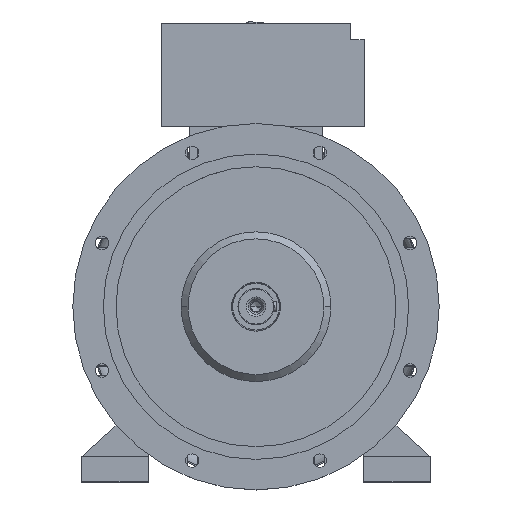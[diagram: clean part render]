
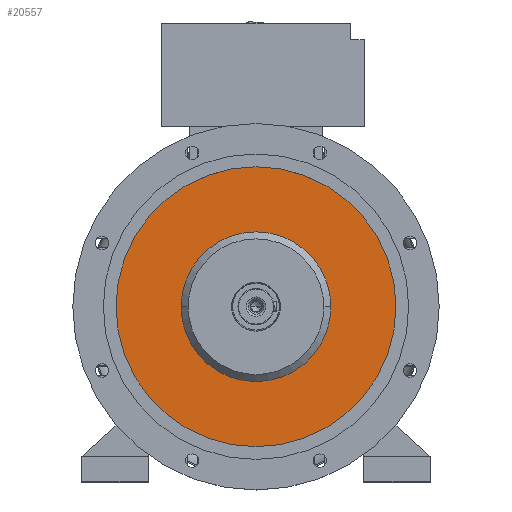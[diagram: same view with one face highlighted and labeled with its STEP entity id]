
A CAD part, top view. The second image highlights one B-rep face of the part: STEP entity #20557.
In plain terms, the highlighted planar face has unit normal (0, 0, 1).
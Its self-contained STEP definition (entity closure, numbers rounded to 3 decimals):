
#338 = AXIS2_PLACEMENT_3D ( 'NONE', #20615, #12152, #10048 ) ;
#1079 = EDGE_LOOP ( 'NONE', ( #16711, #14257 ) ) ;
#1536 = DIRECTION ( 'NONE',  ( 1., 0., 0. ) ) ;
#1655 = CIRCLE ( 'NONE', #13683, 134.8 ) ;
#2373 = DIRECTION ( 'NONE',  ( -1., 0., 0. ) ) ;
#2785 = FACE_OUTER_BOUND ( 'NONE', #1079, .T. ) ;
#3695 = ORIENTED_EDGE ( 'NONE', *, *, #10586, .T. ) ;
#4003 = ORIENTED_EDGE ( 'NONE', *, *, #14015, .T. ) ;
#5233 = CARTESIAN_POINT ( 'NONE',  ( 0., 0., 455.4 ) ) ;
#5299 = CIRCLE ( 'NONE', #6206, 252.083 ) ;
#5752 = VERTEX_POINT ( 'NONE', #21466 ) ;
#6206 = AXIS2_PLACEMENT_3D ( 'NONE', #5233, #6880, #11080 ) ;
#6880 = DIRECTION ( 'NONE',  ( 0., 0., 1. ) ) ;
#7960 = CARTESIAN_POINT ( 'NONE',  ( 0., 0., 455.4 ) ) ;
#9981 = CIRCLE ( 'NONE', #12618, 252.083 ) ;
#10048 = DIRECTION ( 'NONE',  ( -1., 0., 0. ) ) ;
#10586 = EDGE_CURVE ( 'NONE', #12983, #26009, #1655, .T. ) ;
#11013 = VERTEX_POINT ( 'NONE', #17675 ) ;
#11080 = DIRECTION ( 'NONE',  ( -1., 0., 0. ) ) ;
#12051 = DIRECTION ( 'NONE',  ( 0., 0., 1. ) ) ;
#12152 = DIRECTION ( 'NONE',  ( 0., 0., -1. ) ) ;
#12168 = DIRECTION ( 'NONE',  ( 0., 0., 1. ) ) ;
#12618 = AXIS2_PLACEMENT_3D ( 'NONE', #7960, #12168, #2373 ) ;
#12771 = EDGE_CURVE ( 'NONE', #11013, #5752, #5299, .T. ) ;
#12983 = VERTEX_POINT ( 'NONE', #20449 ) ;
#13683 = AXIS2_PLACEMENT_3D ( 'NONE', #22748, #22827, #18665 ) ;
#13858 = FACE_BOUND ( 'NONE', #15076, .T. ) ;
#14015 = EDGE_CURVE ( 'NONE', #26009, #12983, #20143, .T. ) ;
#14257 = ORIENTED_EDGE ( 'NONE', *, *, #17148, .T. ) ;
#15076 = EDGE_LOOP ( 'NONE', ( #4003, #3695 ) ) ;
#16711 = ORIENTED_EDGE ( 'NONE', *, *, #12771, .T. ) ;
#17148 = EDGE_CURVE ( 'NONE', #5752, #11013, #9981, .T. ) ;
#17675 = CARTESIAN_POINT ( 'NONE',  ( -252.083, 0., 455.4 ) ) ;
#18665 = DIRECTION ( 'NONE',  ( -1., 0., 0. ) ) ;
#20143 = CIRCLE ( 'NONE', #338, 134.8 ) ;
#20449 = CARTESIAN_POINT ( 'NONE',  ( 134.8, 0., 455.4 ) ) ;
#20557 = ADVANCED_FACE ( 'NONE', ( #13858, #2785 ), #22512, .T. ) ;
#20615 = CARTESIAN_POINT ( 'NONE',  ( 0., 0., 455.4 ) ) ;
#21466 = CARTESIAN_POINT ( 'NONE',  ( 252.083, 0., 455.4 ) ) ;
#21503 = AXIS2_PLACEMENT_3D ( 'NONE', #22601, #12051, #1536 ) ;
#22512 = PLANE ( 'NONE',  #21503 ) ;
#22601 = CARTESIAN_POINT ( 'NONE',  ( 0., 252.083, 455.4 ) ) ;
#22748 = CARTESIAN_POINT ( 'NONE',  ( 0., 0., 455.4 ) ) ;
#22827 = DIRECTION ( 'NONE',  ( 0., 0., -1. ) ) ;
#24899 = CARTESIAN_POINT ( 'NONE',  ( -134.8, 0., 455.4 ) ) ;
#26009 = VERTEX_POINT ( 'NONE', #24899 ) ;
